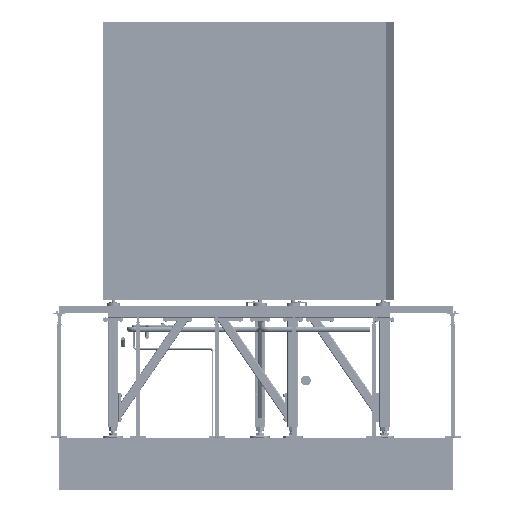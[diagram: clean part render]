
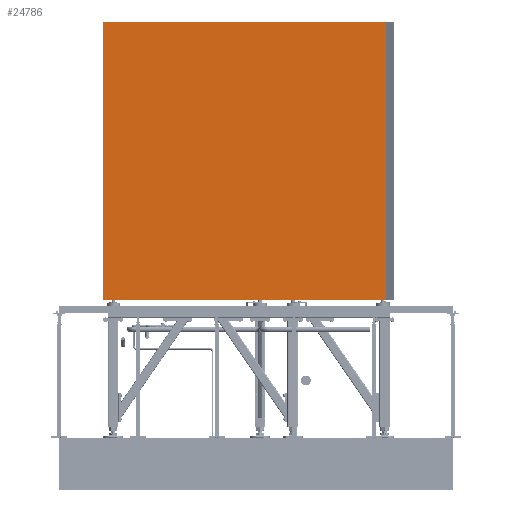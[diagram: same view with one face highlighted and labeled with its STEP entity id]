
A CAD part, front view. The second image highlights one B-rep face of the part: STEP entity #24786.
In plain terms, the highlighted planar face has unit normal (0, -1, 0).
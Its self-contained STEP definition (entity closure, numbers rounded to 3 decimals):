
#1452 = ORIENTED_EDGE ( 'NONE', *, *, #73303, .F. ) ;
#3593 = VECTOR ( 'NONE', #82359, 1000. ) ;
#19006 = VECTOR ( 'NONE', #78287, 1000. ) ;
#19451 = EDGE_LOOP ( 'NONE', ( #21994, #64132, #1452, #102287 ) ) ;
#21994 = ORIENTED_EDGE ( 'NONE', *, *, #98612, .F. ) ;
#22432 = LINE ( 'NONE', #53201, #19006 ) ;
#23215 = VECTOR ( 'NONE', #79278, 1000. ) ;
#24089 = VERTEX_POINT ( 'NONE', #111962 ) ;
#24239 = CARTESIAN_POINT ( 'NONE',  ( -16418.223, -6454., 9170. ) ) ;
#24440 = VECTOR ( 'NONE', #114427, 1000. ) ;
#24786 = ADVANCED_FACE ( 'NONE', ( #83471 ), #29564, .T. ) ;
#27216 = CARTESIAN_POINT ( 'NONE',  ( -18582., -6454., 7050. ) ) ;
#28165 = AXIS2_PLACEMENT_3D ( 'NONE', #106078, #115544, #50541 ) ;
#29564 = PLANE ( 'NONE',  #28165 ) ;
#34807 = VERTEX_POINT ( 'NONE', #84987 ) ;
#45247 = EDGE_CURVE ( 'NONE', #107152, #34807, #69197, .T. ) ;
#47511 = CARTESIAN_POINT ( 'NONE',  ( -16418.223, -6454., 7000. ) ) ;
#50541 = DIRECTION ( 'NONE',  ( 0., 0., 1. ) ) ;
#53201 = CARTESIAN_POINT ( 'NONE',  ( -17491.01, -6454., 9170. ) ) ;
#53472 = VERTEX_POINT ( 'NONE', #99210 ) ;
#64132 = ORIENTED_EDGE ( 'NONE', *, *, #45247, .F. ) ;
#69197 = LINE ( 'NONE', #47511, #23215 ) ;
#73303 = EDGE_CURVE ( 'NONE', #53472, #107152, #22432, .T. ) ;
#78287 = DIRECTION ( 'NONE',  ( 1., 0., 0. ) ) ;
#79278 = DIRECTION ( 'NONE',  ( 0., 0., -1. ) ) ;
#82359 = DIRECTION ( 'NONE',  ( -1., 0., 0. ) ) ;
#83367 = EDGE_CURVE ( 'NONE', #24089, #53472, #104340, .T. ) ;
#83471 = FACE_OUTER_BOUND ( 'NONE', #19451, .T. ) ;
#84987 = CARTESIAN_POINT ( 'NONE',  ( -16418.223, -6454., 7050. ) ) ;
#98612 = EDGE_CURVE ( 'NONE', #34807, #24089, #127770, .T. ) ;
#99210 = CARTESIAN_POINT ( 'NONE',  ( -18582., -6454., 9170. ) ) ;
#102287 = ORIENTED_EDGE ( 'NONE', *, *, #83367, .F. ) ;
#104340 = LINE ( 'NONE', #113060, #24440 ) ;
#106078 = CARTESIAN_POINT ( 'NONE',  ( -16418.223, -6454., 7000. ) ) ;
#107152 = VERTEX_POINT ( 'NONE', #24239 ) ;
#111962 = CARTESIAN_POINT ( 'NONE',  ( -18582., -6454., 7050. ) ) ;
#113060 = CARTESIAN_POINT ( 'NONE',  ( -18582., -6454., 7000. ) ) ;
#114427 = DIRECTION ( 'NONE',  ( 0., 0., 1. ) ) ;
#115544 = DIRECTION ( 'NONE',  ( 0., -1., 0. ) ) ;
#127770 = LINE ( 'NONE', #27216, #3593 ) ;
